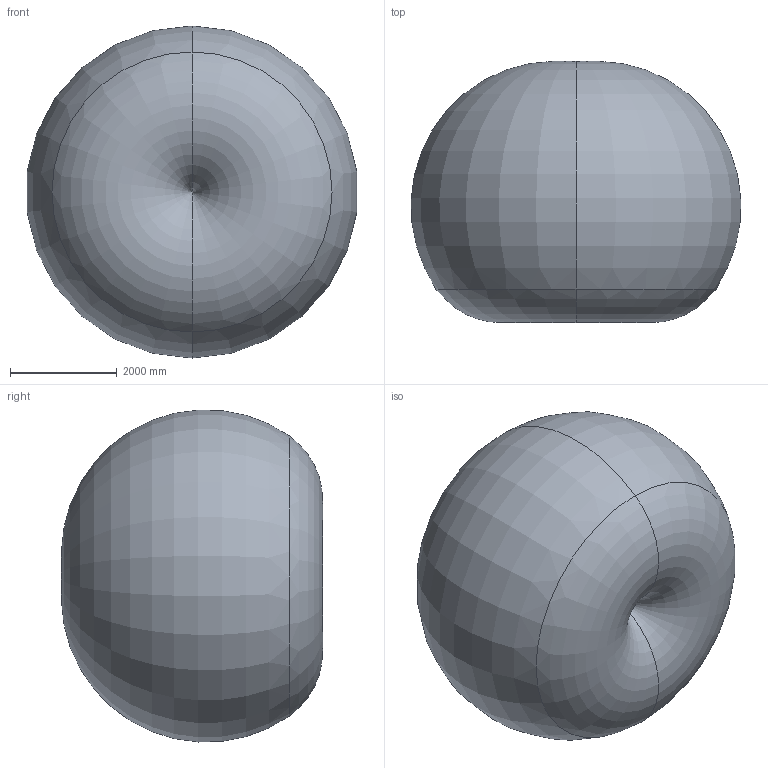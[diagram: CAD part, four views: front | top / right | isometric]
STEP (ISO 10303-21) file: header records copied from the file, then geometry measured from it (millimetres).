
FILE_DESCRIPTION (( 'STEP AP214' ), '1' );
FILE_NAME ('SMART-5 NJ-16-3.1 (3D-STEP).STEP', '2013-08-27T07:30:36', ( '' ), ( '' ), 'SwSTEP 2.0', 'SolidWorks 2007', '' );
FILE_SCHEMA (( 'AUTOMOTIVE_DESIGN' ));
Length unit declared in the file: millimetre
Products named in the file (27): SMART-5 NJ-16-3.1 (3D-STEP); SMART-5 NJ-16-3.1_p01; SMART-5 NJ-16-3.1_p05; SMART-5 NJ-16-3.1_p04; SMART-5 NJ-16-3.1_p03; SMART-5 NJ-16-3.1_p02; SMART-5 NJ-16-3.1_p08; SMART-5 NJ-16-3.1_p07; SMART-5 NJ-16-3.1_p06; SMART-5 NJ-16-3.1_SM-CR82350074; SMART-5 NJ-16-3.1_SM-CR82350094; SMART-5 NJ-16-3.1_p10; SMART-5 NJ-16-3.1_p09; SMART-5 NJ-16-3.1_p12; SMART-5 NJ-16-3.1_SM-CR82350042; SMART-5 NJ-16-3.1_SM-CR82350032; SMART-5 NJ-16-3.1_SM-CR82350044; SMART-5 NJ-16-3.1_p15; SMART-5 NJ-16-3.1_p14; SMART-5 NJ-16-3.1_p13; SMART-5 NJ-16-3.1_cab01; SMART-5 NJ-16-3.1_cab03; SMART-5 NJ-16-3.1_cab02; SMART-5 NJ-16-3.1_p16; Operation Area SMART-5 NJ-16-3.1_1; SMART-5 NJ-16-3.1_p17; SMART-5 NJ-16-3.1_cab04
Assembly tree (30 placements, depth 2):
  SMART-5 NJ-16-3.1 (3D-STEP)
    SMART-5 NJ-16-3.1_p03
    SMART-5 NJ-16-3.1_p15  x3
    SMART-5 NJ-16-3.1_p08
    SMART-5 NJ-16-3.1_p16  x2
    SMART-5 NJ-16-3.1_p14
    SMART-5 NJ-16-3.1_p13
    SMART-5 NJ-16-3.1_p12
    SMART-5 NJ-16-3.1_p02
    SMART-5 NJ-16-3.1_p17
    SMART-5 NJ-16-3.1_SM-CR82350044
    SMART-5 NJ-16-3.1_cab04
    SMART-5 NJ-16-3.1_p05
    SMART-5 NJ-16-3.1_p04
    Operation Area SMART-5 NJ-16-3.1_1
    SMART-5 NJ-16-3.1_SM-CR82350094
    SMART-5 NJ-16-3.1_SM-CR82350074  x2
    SMART-5 NJ-16-3.1_p09
    SMART-5 NJ-16-3.1_p06
    SMART-5 NJ-16-3.1_cab01
    SMART-5 NJ-16-3.1_p07
    SMART-5 NJ-16-3.1_cab03
    SMART-5 NJ-16-3.1_p01
    SMART-5 NJ-16-3.1_SM-CR82350032
    SMART-5 NJ-16-3.1_SM-CR82350042
    SMART-5 NJ-16-3.1_cab02
    SMART-5 NJ-16-3.1_p10
Bounding box: 6162.61 x 4882.06 x 6207.87 mm (x, y, z)
Volume: 105539132789.6 mm3; surface area: 135615785.9 mm2
Topology: 38 solids, 38 shells, 5218 faces, 13589 edges, 8560 vertices
Faces by surface type: cylinder 1945, plane 1768, bspline 765, torus 415, cone 314, sphere 11
Entity records: 200557 total; most frequent: CARTESIAN_POINT 75479, ORIENTED_EDGE 24976, DIRECTION 23029, EDGE_CURVE 12488, AXIS2_PLACEMENT_3D 8786, VERTEX_POINT 7977, VECTOR 5457, LINE 5457
